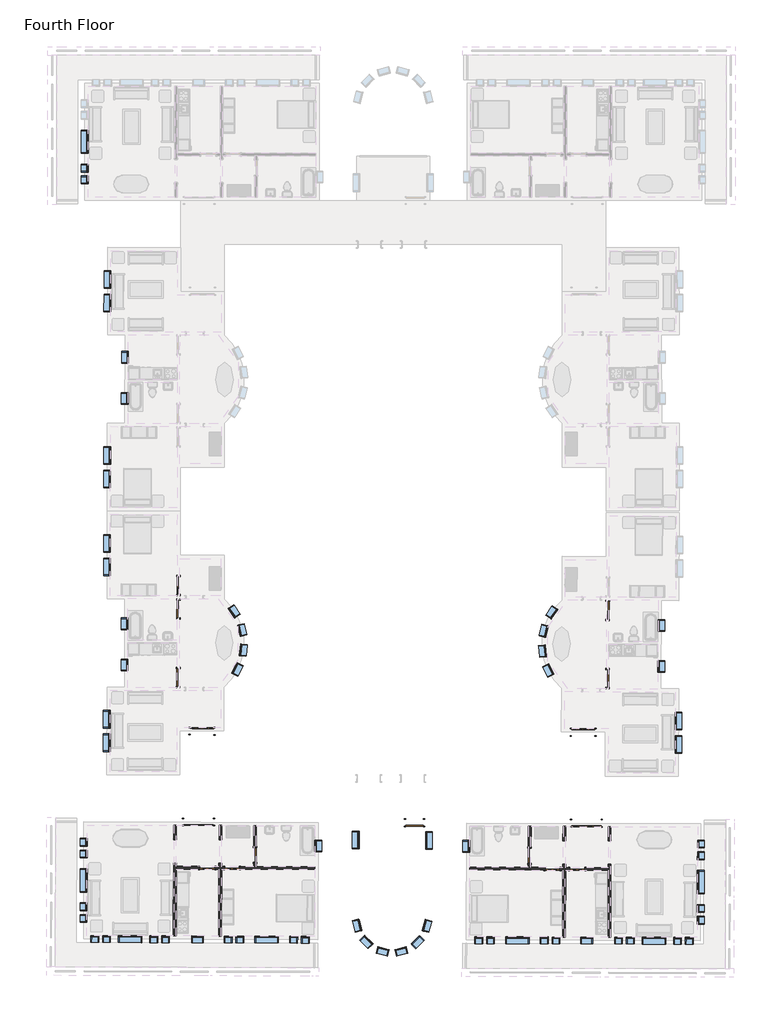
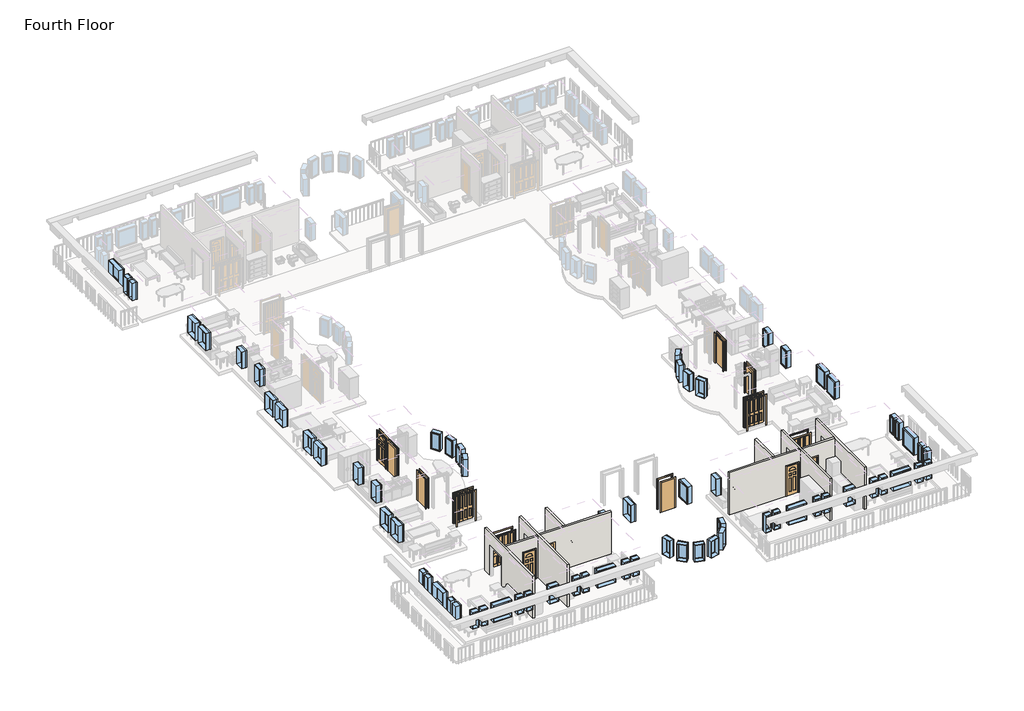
# One storey, part 1 of 8: 69 windows, 16 doors, 8 walls.
"""IFC4 building model written with IfcOpenShell, lengths in millimetres."""

from ifc_helpers import new_model, si_unit, frame, origin, place, context, project, spatial, polyline, outline, extrude, faceted_brep, transform, mapped, element, save
from components import m_bifold_4_panel_1220_x_2134mm_46e1cad3, m_bifold_4_panel_1220_x_2134mm_cde6dea2, m_bifold_4_panel_1525_x_2134mm_1ddae71f, m_bifold_4_panel_1525_x_2134mm_ac598c8b, m_single_decorative_2_0762_x_2134mm_0d0af7cb, m_single_decorative_2_0762_x_2134mm_2fe67c8e, m_single_decorative_2_0915_x_2134mm_0b11df3f, m_single_flush_0762_x_2134mm_0d89e411, m_single_flush_0762_x_2134mm_a28375c7, m_single_flush_0915_x_2134mm_ab9b6334, m_single_flush_0915_x_2134mm_08e0827a, m_single_flush_0915_x_2134mm_70678a7c, m_fixed_0406_x_1220mm_57fee329, m_fixed_0406_x_1220mm_85c28f40, m_fixed_0610_x_1220mm_2c28ef1d, m_fixed_0610_x_1220mm_1ea27827, m_fixed_0915_x_1220mm_bde29121, m_fixed_0915_x_1220mm_2a2509e7, m_fixed_1220_x_1220mm_e08ff7af, m_fixed_1220_x_1220mm_8f5f8ad3

model = new_model("IFC4")

# Units and contexts
model_context = context("Model", 3, world=origin())
ifc_project = project(units=[si_unit("LENGTHUNIT", "METRE", prefix="MILLI")], contexts=[model_context])

# Site, building, storey
site = spatial("IfcSite", under=ifc_project)
building = spatial("IfcBuilding", under=site)
storey = spatial("IfcBuildingStorey", under=building, Name="Fourth Floor", Elevation=9144.0)

# Doors
placement = place(None, origin())
m_bifold_4_panel_1220_x_2134mm_shape = m_bifold_4_panel_1220_x_2134mm_46e1cad3(model_context)
element("IfcDoor", 1, ObjectType="M_Bifold-4 Panel : 1220 x 2134mm", at=placement, inside=storey, context=model_context, shape_type="MappedRepresentation", body=[
    mapped(m_bifold_4_panel_1220_x_2134mm_shape, transform((-9084.0085376, -31158.0124606, 9144.0), x_axis=(0.9999905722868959, -0.0043422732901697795, 0.0), y_axis=(0.0043422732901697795, 0.9999905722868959, 0.0), z_axis=(0.0, 0.0, 1.0))),
])
m_bifold_4_panel_1220_x_2134mm_2_shape = m_bifold_4_panel_1220_x_2134mm_cde6dea2(model_context)
element("IfcDoor", 2, ObjectType="M_Bifold-4 Panel : 1220 x 2134mm", at=placement, inside=storey, context=model_context, shape_type="MappedRepresentation", body=[
    mapped(m_bifold_4_panel_1220_x_2134mm_2_shape, transform((-28896.4341492, -31100.6581424, 9144.0), x_axis=(-0.9999989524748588, 0.0014474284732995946, 0.0), y_axis=(-0.0014474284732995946, -0.9999989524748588, 0.0), z_axis=(0.0, 0.0, 1.0))),
])
m_bifold_4_panel_1525_x_2134mm_shape = m_bifold_4_panel_1525_x_2134mm_1ddae71f(model_context)
element("IfcDoor", 3, ObjectType="M_Bifold-4 Panel : 1525 x 2134mm", at=placement, inside=storey, context=model_context, shape_type="MappedRepresentation", body=[
    mapped(m_bifold_4_panel_1525_x_2134mm_shape, transform((-29084.8596063, -35825.933405, 9144.0), x_axis=(-0.9999958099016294, 0.0028948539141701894, 0.0), y_axis=(-0.0028948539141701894, -0.9999958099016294, 0.0), z_axis=(0.0, 0.0, 1.0))),
])
m_bifold_4_panel_1525_x_2134mm_2_shape = m_bifold_4_panel_1525_x_2134mm_ac598c8b(model_context)
element("IfcDoor", 4, ObjectType="M_Bifold-4 Panel : 1525 x 2134mm", at=placement, inside=storey, context=model_context, shape_type="MappedRepresentation", body=[
    mapped(m_bifold_4_panel_1525_x_2134mm_2_shape, transform((-8922.9440871, -35884.2994497, 9144.0), x_axis=(0.9999958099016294, -0.0028948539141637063, 0.0), y_axis=(0.0028948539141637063, 0.9999958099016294, 0.0), z_axis=(0.0, 0.0, 1.0))),
])
m_single_decorative_2_0762_x_2134mm_shape = m_single_decorative_2_0762_x_2134mm_0d0af7cb(model_context)
element("IfcDoor", 5, ObjectType="M_Single-Decorative 2 : 0762 x 2134mm", at=placement, inside=storey, context=model_context, shape_type="MappedRepresentation", body=[
    mapped(m_single_decorative_2_0762_x_2134mm_shape, transform((-10682.8170859, -38255.9648119, 9144.0), x_axis=(0.9999958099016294, -0.002894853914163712, 0.0), y_axis=(0.002894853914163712, 0.9999958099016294, 0.0), z_axis=(0.0, 0.0, 1.0))),
])
element("IfcDoor", 6, ObjectType="M_Single-Decorative 2 : 0762 x 2134mm", at=placement, inside=storey, context=model_context, shape_type="MappedRepresentation", body=[
    mapped(m_single_decorative_2_0762_x_2134mm_shape, transform((-28625.491904, -38204.0231719, 9144.0), x_axis=(0.9999958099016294, -0.0028948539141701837, 0.0), y_axis=(0.0028948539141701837, 0.9999958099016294, 0.0), z_axis=(0.0, 0.0, 1.0))),
])
m_single_decorative_2_0762_x_2134mm_2_shape = m_single_decorative_2_0762_x_2134mm_2fe67c8e(model_context)
element("IfcDoor", 7, ObjectType="M_Single-Decorative 2 : 0762 x 2134mm", at=placement, inside=storey, context=model_context, shape_type="MappedRepresentation", body=[
    mapped(m_single_decorative_2_0762_x_2134mm_2_shape, transform((-9396.0724775, -38259.6897652, 9144.0), x_axis=(-0.9999958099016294, 0.002894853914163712, 0.0), y_axis=(-0.002894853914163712, -0.9999958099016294, 0.0), z_axis=(0.0, 0.0, 1.0))),
])
element("IfcDoor", 8, ObjectType="M_Single-Decorative 2 : 0762 x 2134mm", at=placement, inside=storey, context=model_context, shape_type="MappedRepresentation", body=[
    mapped(m_single_decorative_2_0762_x_2134mm_2_shape, transform((-27338.7472956, -38207.7481251, 9144.0), x_axis=(-0.9999958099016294, 0.0028948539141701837, 0.0), y_axis=(-0.0028948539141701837, -0.9999958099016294, 0.0), z_axis=(0.0, 0.0, 1.0))),
])
m_single_decorative_2_0915_x_2134mm_shape = m_single_decorative_2_0915_x_2134mm_0b11df3f(model_context)
element("IfcDoor", 9, ObjectType="M_Single-Decorative 2 : 0915 x 2134mm", at=placement, inside=storey, context=model_context, shape_type="MappedRepresentation", body=[
    mapped(m_single_decorative_2_0915_x_2134mm_shape, transform((-30128.4841363, -23534.6169126, 9144.0), x_axis=(-0.0014474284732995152, -0.9999989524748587, 0.0), y_axis=(0.9999989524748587, -0.0014474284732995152, 0.0), z_axis=(0.0, 0.0, 1.0))),
])
m_single_flush_0762_x_2134mm_shape = m_single_flush_0762_x_2134mm_0d89e411(model_context)
element("IfcDoor", 10, ObjectType="M_Single-Flush : 0762 x 2134mm", at=placement, inside=storey, context=model_context, shape_type="MappedRepresentation", body=[
    mapped(m_single_flush_0762_x_2134mm_shape, transform((-26146.2902967, -37533.4472886, 9144.0), x_axis=(-0.0028948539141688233, -0.9999958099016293, 0.0), y_axis=(0.9999958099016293, -0.0028948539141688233, 0.0), z_axis=(0.0, 0.0, 1.0))),
])
m_single_flush_0762_x_2134mm_2_shape = m_single_flush_0762_x_2134mm_a28375c7(model_context)
element("IfcDoor", 11, ObjectType="M_Single-Flush : 0762 x 2134mm", at=placement, inside=storey, context=model_context, shape_type="MappedRepresentation", body=[
    mapped(m_single_flush_0762_x_2134mm_2_shape, transform((-11871.3501103, -37574.7713282, 9144.0), x_axis=(-0.002894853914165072, -0.9999958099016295, 0.0), y_axis=(0.9999958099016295, -0.002894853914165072, 0.0), z_axis=(0.0, 0.0, 1.0))),
])
m_single_flush_0915_x_2134mm_shape = m_single_flush_0915_x_2134mm_ab9b6334(model_context)
element("IfcDoor", 12, ObjectType="M_Single-Flush : 0915 x 2134mm", at=placement, inside=storey, context=model_context, shape_type="MappedRepresentation", body=[
    mapped(m_single_flush_0915_x_2134mm_shape, transform((-7813.4717889, -24819.219718, 9144.0), x_axis=(0.004342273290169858, 0.9999905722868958, 0.0), y_axis=(-0.9999905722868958, 0.004342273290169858, 0.0), z_axis=(0.0, 0.0, 1.0))),
])
element("IfcDoor", 13, ObjectType="M_Single-Flush : 0915 x 2134mm", at=placement, inside=storey, context=model_context, shape_type="MappedRepresentation", body=[
    mapped(m_single_flush_0915_x_2134mm_shape, transform((-30135.3858371, -28302.8619177, 9144.0), x_axis=(-0.0014474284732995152, -0.9999989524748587, 0.0), y_axis=(0.9999989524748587, -0.0014474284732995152, 0.0), z_axis=(0.0, 0.0, 1.0))),
])
m_single_flush_0915_x_2134mm_2_shape = m_single_flush_0915_x_2134mm_08e0827a(model_context)
element("IfcDoor", 14, ObjectType="M_Single-Flush : 0915 x 2134mm", at=placement, inside=storey, context=model_context, shape_type="MappedRepresentation", body=[
    mapped(m_single_flush_0915_x_2134mm_2_shape, transform((-7828.8792601, -28367.4362661, 9144.0), x_axis=(-0.004342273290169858, -0.9999905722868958, 0.0), y_axis=(0.9999905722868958, -0.004342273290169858, 0.0), z_axis=(0.0, 0.0, 1.0))),
])
element("IfcDoor", 15, ObjectType="M_Single-Flush : 0915 x 2134mm", at=placement, inside=storey, context=model_context, shape_type="MappedRepresentation", body=[
    mapped(m_single_flush_0915_x_2134mm_2_shape, transform((-30130.249999, -24754.6156346, 9144.0), x_axis=(0.0014474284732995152, 0.9999989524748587, 0.0), y_axis=(-0.9999989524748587, 0.0014474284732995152, 0.0), z_axis=(0.0, 0.0, 1.0))),
])
m_single_flush_0915_x_2134mm_3_shape = m_single_flush_0915_x_2134mm_70678a7c(model_context)
element("IfcDoor", 16, ObjectType="M_Single-Flush : 0915 x 2134mm", at=placement, inside=storey, context=model_context, shape_type="MappedRepresentation", body=[
    mapped(m_single_flush_0915_x_2134mm_3_shape, transform((-17860.906636, -35858.4252454, 9144.0), x_axis=(0.9999958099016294, -0.0028948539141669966, 0.0), y_axis=(0.0028948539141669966, 0.9999958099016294, 0.0), z_axis=(0.0, 0.0, 1.0))),
])

# Walls
element("IfcWall", 17, ObjectType="Interior - 135mm Partition (2-hr)", at=placement, inside=storey, context=model_context, shape_type="Brep", body=[
    faceted_brep([(-7661.5898742, -41808.9757108, 9144.0), (-7650.6270624, -38021.9915787, 9144.0), (-7650.6270624, -38021.9915787, 11278.0), (-7647.0953406, -36801.9966906, 11278.0), (-7647.0953406, -36801.9966906, 9144.0), (-7644.9560436, -36062.9997871, 9144.0), (-7644.9560436, -36062.9997871, 12192.0), (-7661.5898742, -41808.9757108, 12192.0), (-7786.1264946, -38021.599326, 11278.0), (-7786.1264946, -38021.599326, 9144.0), (-7786.6330941, -38196.5985928, 9144.0), (-7787.0253468, -38332.098025, 9144.0), (-7797.0893064, -41808.5834581, 9144.0), (-7797.0893064, -41808.5834581, 12192.0), (-7787.0253468, -38332.098025, 12192.0), (-7786.6330941, -38196.5985928, 12192.0), (-7780.4554758, -36062.6075344, 12192.0), (-7780.4554758, -36062.6075344, 9144.0), (-7782.5947729, -36801.6044379, 9144.0), (-7782.5947729, -36801.6044379, 11278.0)], [[[0, 1, 2, 3, 4, 5, 6, 7]], [[8, 9, 10, 11, 12, 13, 14, 15, 16, 17, 18, 19]], [[18, 17, 5, 4]], [[12, 11, 10, 9, 1, 0]], [[7, 6, 16, 15, 14, 13]], [[4, 3, 19, 18]], [[2, 1, 9, 8]], [[3, 2, 8, 19]], [[6, 5, 17, 16]], [[0, 7, 13, 12]]]),
])
element("IfcWall", 18, ObjectType="Interior - 135mm Partition (2-hr)", at=placement, inside=storey, context=model_context, shape_type="Brep", body=[
    faceted_brep([(-10000.8354782, -36795.1829282, 11278.0), (-10000.8354782, -36795.1829282, 9144.0), (-9998.6961811, -36056.1860247, 9144.0), (-9998.6961811, -36056.1860247, 12192.0), (-10004.8737994, -38190.1770831, 12192.0), (-10005.2660521, -38325.6765153, 12192.0), (-10015.3300117, -41802.1619484, 12192.0), (-10015.3300117, -41802.1619484, 9144.0), (-10005.2660521, -38325.6765153, 9144.0), (-10004.8737994, -38190.1770831, 9144.0), (-10004.3671999, -38015.1778163, 9144.0), (-10004.3671999, -38015.1778163, 11278.0), (-10134.1956134, -36055.793772, 9144.0), (-10136.3349104, -36794.7906755, 9144.0), (-10136.3349104, -36794.7906755, 11278.0), (-10139.8666322, -38014.7855636, 11278.0), (-10139.8666322, -38014.7855636, 9144.0), (-10140.3732316, -38189.7848304, 9144.0), (-10140.7654843, -38325.2842626, 9144.0), (-10150.829444, -41801.7696957, 9144.0), (-10150.829444, -41801.7696957, 12192.0), (-10140.7654843, -38325.2842626, 12192.0), (-10140.3732316, -38189.7848304, 12192.0), (-10134.1956134, -36055.793772, 12192.0)], [[[0, 1, 2, 3, 4, 5, 6, 7, 8, 9, 10, 11]], [[12, 13, 14, 15, 16, 17, 18, 19, 20, 21, 22, 23]], [[2, 1, 13, 12]], [[10, 9, 8, 7, 19, 18, 17, 16]], [[6, 5, 4, 3, 23, 22, 21, 20]], [[16, 15, 11, 10]], [[14, 13, 1, 0]], [[15, 14, 0, 11]], [[3, 2, 12, 23]], [[7, 6, 20, 19]]]),
])
element("IfcWall", 19, ObjectType="Interior - 135mm Partition (2-hr)", at=placement, inside=storey, context=model_context, shape_type="Brep", body=[
    faceted_brep([(-9777.2670074, -38326.336542, 9144.0), (-9777.2670074, -38326.336542, 11278.0), (-9015.2702003, -38328.5424207, 11278.0), (-9015.2702003, -38328.5424207, 9144.0), (-7787.0253468, -38332.098025, 9144.0), (-7787.0253468, -38332.098025, 12192.0), (-10005.2660521, -38325.6765153, 12192.0), (-10005.2660521, -38325.6765153, 9144.0), (-9776.8747547, -38190.8371097, 11278.0), (-9776.8747547, -38190.8371097, 9144.0), (-10004.8737994, -38190.1770831, 9144.0), (-10004.8737994, -38190.1770831, 12192.0), (-7786.6330941, -38196.5985928, 12192.0), (-7786.6330941, -38196.5985928, 9144.0), (-9014.8779476, -38193.0429884, 9144.0), (-9014.8779476, -38193.0429884, 11278.0)], [[[0, 1, 2, 3, 4, 5, 6, 7]], [[8, 9, 10, 11, 12, 13, 14, 15]], [[9, 0, 7, 10]], [[3, 14, 13, 4]], [[5, 12, 11, 6]], [[1, 0, 9, 8]], [[2, 1, 8, 15]], [[3, 2, 15, 14]], [[5, 4, 13, 12]], [[7, 6, 11, 10]]]),
    faceted_brep([(-10302.0148087, -38324.8174674, 11278.0), (-10302.0148087, -38324.8174674, 9144.0), (-10140.7654843, -38325.2842626, 9144.0), (-10140.7654843, -38325.2842626, 12192.0), (-14989.2451686, -38311.2485634, 12192.0), (-14989.2451686, -38311.2485634, 9144.0), (-11064.0116158, -38322.6115887, 9144.0), (-11064.0116158, -38322.6115887, 11278.0), (-10301.622556, -38189.3180352, 9144.0), (-10301.622556, -38189.3180352, 11278.0), (-11063.6193631, -38187.1121565, 11278.0), (-11063.6193631, -38187.1121565, 9144.0), (-11805.3662551, -38184.9648986, 9144.0), (-11940.8656874, -38184.5726459, 9144.0), (-14988.8529159, -38175.7491311, 9144.0), (-14988.8529159, -38175.7491311, 12192.0), (-11940.8656874, -38184.5726459, 12192.0), (-11805.3662551, -38184.9648986, 12192.0), (-10140.3732316, -38189.7848304, 12192.0), (-10140.3732316, -38189.7848304, 9144.0)], [[[0, 1, 2, 3, 4, 5, 6, 7]], [[8, 9, 10, 11, 12, 13, 14, 15, 16, 17, 18, 19]], [[1, 8, 19, 2]], [[11, 6, 5, 14, 13, 12]], [[15, 4, 3, 18, 17, 16]], [[9, 8, 1, 0]], [[10, 9, 0, 7]], [[11, 10, 7, 6]], [[5, 4, 15, 14]], [[3, 2, 19, 18]]]),
])
element("IfcWall", 20, ObjectType="Interior - 135mm Partition (2-hr)", at=placement, inside=storey, context=model_context, shape_type="SweptSolid", body=[
    extrude(outline(polyline([(-2309.0, 0.0), (-2080.0, 0.0), (-2080.0, -2134.0), (-1318.0, -2134.0), (-1318.0, 0.0), (-175.0000001, 0.0), (-175.0000001, -3048.0), (-2309.0, -3048.0), (-2309.0, 0.0)])), frame((-11798.6820374, -35875.9745735, 9144.0), z_axis=(-0.9999958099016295, 0.002894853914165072, 0.0), x_axis=(0.002894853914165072, 0.9999958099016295, 0.0)), (0.0, 0.0, 1.0), 135.5),
])
element("IfcWall", 21, ObjectType="Interior - 135mm Partition (2-hr)", at=placement, inside=storey, context=model_context, shape_type="Brep", body=[
    faceted_brep([(-30244.9952471, -41743.5997775, 9144.0), (-30234.9312874, -38267.1143443, 9144.0), (-30234.5390347, -38131.6149121, 9144.0), (-30234.0324353, -37956.6156454, 9144.0), (-30234.0324353, -37956.6156454, 11278.0), (-30230.5007135, -36736.6207573, 11278.0), (-30230.5007135, -36736.6207573, 9144.0), (-30228.3614165, -35997.6238538, 9144.0), (-30228.3614165, -35997.6238538, 12192.0), (-30234.5390347, -38131.6149121, 12192.0), (-30234.9312874, -38267.1143443, 12192.0), (-30244.9952471, -41743.5997775, 12192.0), (-30369.5318675, -37956.2233926, 11278.0), (-30369.5318675, -37956.2233926, 9144.0), (-30380.4946793, -41743.2075247, 9144.0), (-30380.4946793, -41743.2075247, 12192.0), (-30363.8608487, -35997.2316011, 12192.0), (-30363.8608487, -35997.2316011, 9144.0), (-30366.0001458, -36736.2285046, 9144.0), (-30366.0001458, -36736.2285046, 11278.0)], [[[0, 1, 2, 3, 4, 5, 6, 7, 8, 9, 10, 11]], [[12, 13, 14, 15, 16, 17, 18, 19]], [[18, 17, 7, 6]], [[14, 13, 3, 2, 1, 0]], [[11, 10, 9, 8, 16, 15]], [[6, 5, 19, 18]], [[4, 3, 13, 12]], [[5, 4, 12, 19]], [[0, 11, 15, 14]], [[8, 7, 17, 16]]]),
])
element("IfcWall", 22, ObjectType="Interior - 135mm Partition (2-hr)", at=placement, inside=storey, context=model_context, shape_type="Brep", body=[
    faceted_brep([(-27876.760576, -36743.4345197, 11278.0), (-27876.760576, -36743.4345197, 9144.0), (-27874.6212789, -36004.4376162, 9144.0), (-27874.6212789, -36004.4376162, 12192.0), (-27880.7988972, -38138.4286745, 12192.0), (-27881.1911499, -38273.9281067, 12192.0), (-27891.2551095, -41750.4135399, 12192.0), (-27891.2551095, -41750.4135399, 9144.0), (-27881.1911499, -38273.9281067, 9144.0), (-27880.7988972, -38138.4286745, 9144.0), (-27880.2922977, -37963.4294078, 9144.0), (-27880.2922977, -37963.4294078, 11278.0), (-28010.1207112, -36004.0453635, 9144.0), (-28012.2600082, -36743.042267, 9144.0), (-28012.2600082, -36743.042267, 11278.0), (-28015.79173, -37963.037155, 11278.0), (-28015.79173, -37963.037155, 9144.0), (-28016.2983294, -38138.0364218, 9144.0), (-28016.6905821, -38273.535854, 9144.0), (-28026.7545418, -41750.0212871, 9144.0), (-28026.7545418, -41750.0212871, 12192.0), (-28016.6905821, -38273.535854, 12192.0), (-28016.2983294, -38138.0364218, 12192.0), (-28010.1207112, -36004.0453635, 12192.0)], [[[0, 1, 2, 3, 4, 5, 6, 7, 8, 9, 10, 11]], [[12, 13, 14, 15, 16, 17, 18, 19, 20, 21, 22, 23]], [[2, 1, 13, 12]], [[10, 9, 8, 7, 19, 18, 17, 16]], [[6, 5, 4, 3, 23, 22, 21, 20]], [[16, 15, 11, 10]], [[14, 13, 1, 0]], [[15, 14, 0, 11]], [[7, 6, 20, 19]], [[3, 2, 12, 23]]]),
])
element("IfcWall", 23, ObjectType="Interior - 135mm Partition (2-hr)", at=placement, inside=storey, context=model_context, shape_type="Brep", body=[
    faceted_brep([(-30234.5390347, -38131.6149121, 9144.0), (-30234.5390347, -38131.6149121, 12192.0), (-28016.2983294, -38138.0364218, 12192.0), (-28016.2983294, -38138.0364218, 9144.0), (-28244.2973741, -38137.3763951, 9144.0), (-28244.2973741, -38137.3763951, 11278.0), (-29006.2941812, -38135.1705164, 11278.0), (-29006.2941812, -38135.1705164, 9144.0), (-30234.9312874, -38267.1143443, 12192.0), (-30234.9312874, -38267.1143443, 9144.0), (-29006.6864339, -38270.6699486, 9144.0), (-29006.6864339, -38270.6699486, 11278.0), (-28244.6896268, -38272.8758273, 11278.0), (-28244.6896268, -38272.8758273, 9144.0), (-28016.6905821, -38273.535854, 9144.0), (-28016.6905821, -38273.535854, 12192.0)], [[[0, 1, 2, 3, 4, 5, 6, 7]], [[8, 9, 10, 11, 12, 13, 14, 15]], [[9, 0, 7, 10]], [[13, 4, 3, 14]], [[1, 8, 15, 2]], [[1, 0, 9, 8]], [[3, 2, 15, 14]], [[5, 4, 13, 12]], [[6, 5, 12, 11]], [[7, 6, 11, 10]]]),
    faceted_brep([(-27719.5495728, -38138.8954697, 11278.0), (-27719.5495728, -38138.8954697, 9144.0), (-27880.7988972, -38138.4286745, 9144.0), (-27880.7988972, -38138.4286745, 12192.0), (-26215.8058737, -38143.2486063, 12192.0), (-26080.3064415, -38143.640859, 12192.0), (-23032.3192129, -38152.4643737, 12192.0), (-23032.3192129, -38152.4643737, 9144.0), (-26080.3064415, -38143.640859, 9144.0), (-26215.8058737, -38143.2486063, 9144.0), (-26957.5527657, -38141.1013484, 9144.0), (-26957.5527657, -38141.1013484, 11278.0), (-27719.9418255, -38274.3949019, 9144.0), (-27719.9418255, -38274.3949019, 11278.0), (-26957.9450184, -38276.6007806, 11278.0), (-26957.9450184, -38276.6007806, 9144.0), (-23032.7114656, -38287.9638059, 9144.0), (-23032.7114656, -38287.9638059, 12192.0), (-27881.1911499, -38273.9281067, 12192.0), (-27881.1911499, -38273.9281067, 9144.0)], [[[0, 1, 2, 3, 4, 5, 6, 7, 8, 9, 10, 11]], [[12, 13, 14, 15, 16, 17, 18, 19]], [[1, 12, 19, 2]], [[15, 10, 9, 8, 7, 16]], [[17, 6, 5, 4, 3, 18]], [[3, 2, 19, 18]], [[13, 12, 1, 0]], [[14, 13, 0, 11]], [[15, 14, 11, 10]], [[7, 6, 17, 16]]]),
])
element("IfcWall", 24, ObjectType="Interior - 135mm Partition (2-hr)", at=placement, inside=storey, context=model_context, shape_type="SweptSolid", body=[
    extrude(outline(polyline([(-2309.0, 0.0), (-2080.0, 0.0), (-2080.0, -2134.0), (-1317.9999999, -2134.0), (-1317.9999999, 0.0), (-175.0, 0.0), (-175.0, -3048.0), (-2309.0, -3048.0), (-2309.0, 0.0)])), frame((-26073.6222238, -35834.6505339, 9144.0), z_axis=(-0.9999958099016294, 0.0028948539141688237, 0.0), x_axis=(0.0028948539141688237, 0.9999958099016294, 0.0)), (0.0, 0.0, 1.0), 135.5),
])

# Windows
m_fixed_0406_x_1220mm_shape = m_fixed_0406_x_1220mm_57fee329(model_context)
element("IfcWindow", 25, ObjectType="M_Fixed : 0406 x 1220mm", at=placement, inside=storey, context=model_context, shape_type="MappedRepresentation", body=[
    mapped(m_fixed_0406_x_1220mm_shape, transform((-35008.8416203, -2447.8811614, 9144.0), x_axis=(0.0, -1.0, 0.0), y_axis=(1.0, 0.0, 0.0), z_axis=(0.0, 0.0, 1.0))),
])
element("IfcWindow", 26, ObjectType="M_Fixed : 0406 x 1220mm", at=placement, inside=storey, context=model_context, shape_type="MappedRepresentation", body=[
    mapped(m_fixed_0406_x_1220mm_shape, transform((-35008.8416203, -1837.8811614, 9144.0), x_axis=(0.0, -1.0, 0.0), y_axis=(1.0, 0.0, 0.0), z_axis=(0.0, 0.0, 1.0))),
])
element("IfcWindow", 27, ObjectType="M_Fixed : 0406 x 1220mm", at=placement, inside=storey, context=model_context, shape_type="MappedRepresentation", body=[
    mapped(m_fixed_0406_x_1220mm_shape, transform((-10500.8722121, -41988.7571565, 9144.0), x_axis=(0.9999958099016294, -0.002894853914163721, 0.0), y_axis=(0.002894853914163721, 0.9999958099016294, 0.0), z_axis=(0.0, 0.0, 1.0))),
])
element("IfcWindow", 28, ObjectType="M_Fixed : 0406 x 1220mm", at=placement, inside=storey, context=model_context, shape_type="MappedRepresentation", body=[
    mapped(m_fixed_0406_x_1220mm_shape, transform((-11110.8696561, -41986.9912956, 9144.0), x_axis=(0.9999958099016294, -0.002894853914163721, 0.0), y_axis=(0.002894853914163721, 0.9999958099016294, 0.0), z_axis=(0.0, 0.0, 1.0))),
])
element("IfcWindow", 29, ObjectType="M_Fixed : 0406 x 1220mm", at=placement, inside=storey, context=model_context, shape_type="MappedRepresentation", body=[
    mapped(m_fixed_0406_x_1220mm_shape, transform((-3572.1512442, -42008.8148756, 9144.0), x_axis=(0.9999958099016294, -0.002894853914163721, 0.0), y_axis=(0.002894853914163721, 0.9999958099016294, 0.0), z_axis=(0.0, 0.0, 1.0))),
])
element("IfcWindow", 30, ObjectType="M_Fixed : 0406 x 1220mm", at=placement, inside=storey, context=model_context, shape_type="MappedRepresentation", body=[
    mapped(m_fixed_0406_x_1220mm_shape, transform((-4182.1486882, -42007.0490147, 9144.0), x_axis=(0.9999958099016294, -0.002894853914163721, 0.0), y_axis=(0.002894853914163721, 0.9999958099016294, 0.0), z_axis=(0.0, 0.0, 1.0))),
])
element("IfcWindow", 31, ObjectType="M_Fixed : 0406 x 1220mm", at=placement, inside=storey, context=model_context, shape_type="MappedRepresentation", body=[
    mapped(m_fixed_0406_x_1220mm_shape, transform((-2955.3079143, -36968.5794278, 9144.0), x_axis=(0.0028948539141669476, 0.9999958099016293, 0.0), y_axis=(-0.9999958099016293, 0.0028948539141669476, 0.0), z_axis=(0.0, 0.0, 1.0))),
])
element("IfcWindow", 32, ObjectType="M_Fixed : 0406 x 1220mm", at=placement, inside=storey, context=model_context, shape_type="MappedRepresentation", body=[
    mapped(m_fixed_0406_x_1220mm_shape, transform((-2957.0737751, -37578.5768719, 9144.0), x_axis=(0.0028948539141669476, 0.9999958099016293, 0.0), y_axis=(-0.9999958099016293, 0.0028948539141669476, 0.0), z_axis=(0.0, 0.0, 1.0))),
])
element("IfcWindow", 33, ObjectType="M_Fixed : 0406 x 1220mm", at=placement, inside=storey, context=model_context, shape_type="MappedRepresentation", body=[
    mapped(m_fixed_0406_x_1220mm_shape, transform((-23528.3176256, -41951.0444472, 9144.0), x_axis=(0.9999958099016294, -0.0028948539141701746, 0.0), y_axis=(0.0028948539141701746, 0.9999958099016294, 0.0), z_axis=(0.0, 0.0, 1.0))),
])
element("IfcWindow", 34, ObjectType="M_Fixed : 0406 x 1220mm", at=placement, inside=storey, context=model_context, shape_type="MappedRepresentation", body=[
    mapped(m_fixed_0406_x_1220mm_shape, transform((-24138.3150696, -41949.2785863, 9144.0), x_axis=(0.9999958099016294, -0.0028948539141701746, 0.0), y_axis=(0.0028948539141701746, 0.9999958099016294, 0.0), z_axis=(0.0, 0.0, 1.0))),
])
element("IfcWindow", 35, ObjectType="M_Fixed : 0406 x 1220mm", at=placement, inside=storey, context=model_context, shape_type="MappedRepresentation", body=[
    mapped(m_fixed_0406_x_1220mm_shape, transform((-30795.2871761, -41930.0075438, 9144.0), x_axis=(0.9999958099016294, -0.0028948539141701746, 0.0), y_axis=(0.0028948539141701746, 0.9999958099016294, 0.0), z_axis=(0.0, 0.0, 1.0))),
])
element("IfcWindow", 36, ObjectType="M_Fixed : 0406 x 1220mm", at=placement, inside=storey, context=model_context, shape_type="MappedRepresentation", body=[
    mapped(m_fixed_0406_x_1220mm_shape, transform((-31405.2846201, -41928.2416829, 9144.0), x_axis=(0.9999958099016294, -0.0028948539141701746, 0.0), y_axis=(0.0028948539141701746, 0.9999958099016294, 0.0), z_axis=(0.0, 0.0, 1.0))),
])
element("IfcWindow", 37, ObjectType="M_Fixed : 0406 x 1220mm", at=placement, inside=storey, context=model_context, shape_type="MappedRepresentation", body=[
    mapped(m_fixed_0406_x_1220mm_shape, transform((-35070.1428086, -40837.627884, 9144.0), x_axis=(-0.002894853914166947, -0.9999958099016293, 0.0), y_axis=(0.9999958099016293, -0.002894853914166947, 0.0), z_axis=(0.0, 0.0, 1.0))),
])
element("IfcWindow", 38, ObjectType="M_Fixed : 0406 x 1220mm", at=placement, inside=storey, context=model_context, shape_type="MappedRepresentation", body=[
    mapped(m_fixed_0406_x_1220mm_shape, transform((-35068.3769478, -40227.63044, 9144.0), x_axis=(-0.002894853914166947, -0.9999958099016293, 0.0), y_axis=(0.9999958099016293, -0.002894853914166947, 0.0), z_axis=(0.0, 0.0, 1.0))),
])
m_fixed_0406_x_1220mm_2_shape = m_fixed_0406_x_1220mm_85c28f40(model_context)
element("IfcWindow", 39, ObjectType="M_Fixed : 0406 x 1220mm", at=placement, inside=storey, context=model_context, shape_type="MappedRepresentation", body=[
    mapped(m_fixed_0406_x_1220mm_2_shape, transform((-14514.855393, -41977.1372129, 9144.0), x_axis=(-0.9999958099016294, 0.002894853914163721, 0.0), y_axis=(-0.002894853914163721, -0.9999958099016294, 0.0), z_axis=(0.0, 0.0, 1.0))),
])
element("IfcWindow", 40, ObjectType="M_Fixed : 0406 x 1220mm", at=placement, inside=storey, context=model_context, shape_type="MappedRepresentation", body=[
    mapped(m_fixed_0406_x_1220mm_2_shape, transform((-13904.857949, -41978.9030738, 9144.0), x_axis=(-0.9999958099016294, 0.002894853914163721, 0.0), y_axis=(-0.002894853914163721, -0.9999958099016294, 0.0), z_axis=(0.0, 0.0, 1.0))),
])
element("IfcWindow", 41, ObjectType="M_Fixed : 0406 x 1220mm", at=placement, inside=storey, context=model_context, shape_type="MappedRepresentation", body=[
    mapped(m_fixed_0406_x_1220mm_2_shape, transform((-7247.8858424, -41998.1741163, 9144.0), x_axis=(-0.9999958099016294, 0.002894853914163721, 0.0), y_axis=(-0.002894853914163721, -0.9999958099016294, 0.0), z_axis=(0.0, 0.0, 1.0))),
])
element("IfcWindow", 42, ObjectType="M_Fixed : 0406 x 1220mm", at=placement, inside=storey, context=model_context, shape_type="MappedRepresentation", body=[
    mapped(m_fixed_0406_x_1220mm_2_shape, transform((-6637.8883984, -41999.9399772, 9144.0), x_axis=(-0.9999958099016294, 0.002894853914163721, 0.0), y_axis=(-0.002894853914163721, -0.9999958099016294, 0.0), z_axis=(0.0, 0.0, 1.0))),
])
element("IfcWindow", 43, ObjectType="M_Fixed : 0406 x 1220mm", at=placement, inside=storey, context=model_context, shape_type="MappedRepresentation", body=[
    mapped(m_fixed_0406_x_1220mm_2_shape, transform((-2966.7773255, -40930.5628267, 9144.0), x_axis=(-0.0028948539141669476, -0.9999958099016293, 0.0), y_axis=(0.9999958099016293, -0.0028948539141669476, 0.0), z_axis=(0.0, 0.0, 1.0))),
])
element("IfcWindow", 44, ObjectType="M_Fixed : 0406 x 1220mm", at=placement, inside=storey, context=model_context, shape_type="MappedRepresentation", body=[
    mapped(m_fixed_0406_x_1220mm_2_shape, transform((-2965.0114646, -40320.5653826, 9144.0), x_axis=(-0.0028948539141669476, -0.9999958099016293, 0.0), y_axis=(0.9999958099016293, -0.0028948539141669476, 0.0), z_axis=(0.0, 0.0, 1.0))),
])
element("IfcWindow", 45, ObjectType="M_Fixed : 0406 x 1220mm", at=placement, inside=storey, context=model_context, shape_type="MappedRepresentation", body=[
    mapped(m_fixed_0406_x_1220mm_2_shape, transform((-27542.3008065, -41939.4245036, 9144.0), x_axis=(-0.9999958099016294, 0.0028948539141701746, 0.0), y_axis=(-0.0028948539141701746, -0.9999958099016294, 0.0), z_axis=(0.0, 0.0, 1.0))),
])
element("IfcWindow", 46, ObjectType="M_Fixed : 0406 x 1220mm", at=placement, inside=storey, context=model_context, shape_type="MappedRepresentation", body=[
    mapped(m_fixed_0406_x_1220mm_2_shape, transform((-26932.3033625, -41941.1903644, 9144.0), x_axis=(-0.9999958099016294, 0.0028948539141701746, 0.0), y_axis=(-0.0028948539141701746, -0.9999958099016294, 0.0), z_axis=(0.0, 0.0, 1.0))),
])
element("IfcWindow", 47, ObjectType="M_Fixed : 0406 x 1220mm", at=placement, inside=storey, context=model_context, shape_type="MappedRepresentation", body=[
    mapped(m_fixed_0406_x_1220mm_2_shape, transform((-34471.0217744, -41919.3667845, 9144.0), x_axis=(-0.9999958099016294, 0.0028948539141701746, 0.0), y_axis=(-0.0028948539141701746, -0.9999958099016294, 0.0), z_axis=(0.0, 0.0, 1.0))),
])
element("IfcWindow", 48, ObjectType="M_Fixed : 0406 x 1220mm", at=placement, inside=storey, context=model_context, shape_type="MappedRepresentation", body=[
    mapped(m_fixed_0406_x_1220mm_2_shape, transform((-33861.0243303, -41921.1326454, 9144.0), x_axis=(-0.9999958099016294, 0.0028948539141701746, 0.0), y_axis=(-0.0028948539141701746, -0.9999958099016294, 0.0), z_axis=(0.0, 0.0, 1.0))),
])
element("IfcWindow", 49, ObjectType="M_Fixed : 0406 x 1220mm", at=placement, inside=storey, context=model_context, shape_type="MappedRepresentation", body=[
    mapped(m_fixed_0406_x_1220mm_2_shape, transform((-35058.6733974, -36875.6444852, 9144.0), x_axis=(0.002894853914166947, 0.9999958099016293, 0.0), y_axis=(-0.9999958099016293, 0.002894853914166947, 0.0), z_axis=(0.0, 0.0, 1.0))),
])
element("IfcWindow", 50, ObjectType="M_Fixed : 0406 x 1220mm", at=placement, inside=storey, context=model_context, shape_type="MappedRepresentation", body=[
    mapped(m_fixed_0406_x_1220mm_2_shape, transform((-35060.4392583, -37485.6419292, 9144.0), x_axis=(0.002894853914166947, 0.9999958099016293, 0.0), y_axis=(-0.9999958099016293, 0.002894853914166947, 0.0), z_axis=(0.0, 0.0, 1.0))),
])
m_fixed_0610_x_1220mm_shape = m_fixed_0610_x_1220mm_2c28ef1d(model_context)
element("IfcWindow", 51, ObjectType="M_Fixed : 0610 x 1220mm", at=placement, inside=storey, context=model_context, shape_type="MappedRepresentation", body=[
    mapped(m_fixed_0610_x_1220mm_shape, transform((-32923.0053866, -13805.8618518, 9144.0), x_axis=(-0.0014474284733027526, -0.9999989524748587, 0.0), y_axis=(0.9999989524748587, -0.0014474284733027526, 0.0), z_axis=(0.0, 0.0, 1.0))),
])
element("IfcWindow", 52, ObjectType="M_Fixed : 0610 x 1220mm", at=placement, inside=storey, context=model_context, shape_type="MappedRepresentation", body=[
    mapped(m_fixed_0610_x_1220mm_shape, transform((-32919.9171532, -11672.2640868, 9144.0), x_axis=(-0.0014474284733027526, -0.9999989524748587, 0.0), y_axis=(0.9999989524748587, -0.0014474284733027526, 0.0), z_axis=(0.0, 0.0, 1.0))),
])
element("IfcWindow", 53, ObjectType="M_Fixed : 0610 x 1220mm", at=placement, inside=storey, context=model_context, shape_type="MappedRepresentation", body=[
    mapped(m_fixed_0610_x_1220mm_shape, transform((-17192.9734341, -41226.7827416, 9144.0), x_axis=(0.2616141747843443, 0.9651725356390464, 0.0), y_axis=(-0.9651725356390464, 0.2616141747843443, 0.0), z_axis=(0.0, 0.0, 1.0))),
])
element("IfcWindow", 54, ObjectType="M_Fixed : 0610 x 1220mm", at=placement, inside=storey, context=model_context, shape_type="MappedRepresentation", body=[
    mapped(m_fixed_0610_x_1220mm_shape, transform((-18533.9080335, -42559.9760987, 9144.0), x_axis=(0.9666710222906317, 0.2560217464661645, 0.0), y_axis=(-0.2560217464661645, 0.9666710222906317, 0.0), z_axis=(0.0, 0.0, 1.0))),
])
element("IfcWindow", 55, ObjectType="M_Fixed : 0610 x 1220mm", at=placement, inside=storey, context=model_context, shape_type="MappedRepresentation", body=[
    mapped(m_fixed_0610_x_1220mm_shape, transform((-17684.8266921, -42073.0305917, 9144.0), x_axis=(0.709150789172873, 0.7050568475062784, 0.0), y_axis=(-0.7050568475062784, 0.709150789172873, 0.0), z_axis=(0.0, 0.0, 1.0))),
])
element("IfcWindow", 56, ObjectType="M_Fixed : 0610 x 1220mm", at=placement, inside=storey, context=model_context, shape_type="MappedRepresentation", body=[
    mapped(m_fixed_0610_x_1220mm_shape, transform((-5008.2557133, -25604.6081373, 9144.0), x_axis=(0.004342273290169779, 0.9999905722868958, 0.0), y_axis=(-0.9999905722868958, 0.004342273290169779, 0.0), z_axis=(0.0, 0.0, 1.0))),
])
element("IfcWindow", 57, ObjectType="M_Fixed : 0610 x 1220mm", at=placement, inside=storey, context=model_context, shape_type="MappedRepresentation", body=[
    mapped(m_fixed_0610_x_1220mm_shape, transform((-5017.5203876, -27738.1880223, 9144.0), x_axis=(0.004342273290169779, 0.9999905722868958, 0.0), y_axis=(-0.9999905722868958, 0.004342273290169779, 0.0), z_axis=(0.0, 0.0, 1.0))),
])
element("IfcWindow", 58, ObjectType="M_Fixed : 0610 x 1220mm", at=placement, inside=storey, context=model_context, shape_type="MappedRepresentation", body=[
    mapped(m_fixed_0610_x_1220mm_shape, transform((-10733.6258869, -24914.686736, 9144.0), x_axis=(-0.5501771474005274, -0.835047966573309, 0.0), y_axis=(0.835047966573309, -0.5501771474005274, 0.0), z_axis=(0.0, 0.0, 1.0))),
])
element("IfcWindow", 59, ObjectType="M_Fixed : 0610 x 1220mm", at=placement, inside=storey, context=model_context, shape_type="MappedRepresentation", body=[
    mapped(m_fixed_0610_x_1220mm_shape, transform((-11153.2313288, -25885.3058303, 9144.0), x_axis=(-0.23139418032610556, -0.9728600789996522, 0.0), y_axis=(0.9728600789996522, -0.23139418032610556, 0.0), z_axis=(0.0, 0.0, 1.0))),
])
element("IfcWindow", 60, ObjectType="M_Fixed : 0610 x 1220mm", at=placement, inside=storey, context=model_context, shape_type="MappedRepresentation", body=[
    mapped(m_fixed_0610_x_1220mm_shape, transform((-29136.4441269, -41934.8096722, 9144.0), x_axis=(0.9999958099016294, -0.0028948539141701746, 0.0), y_axis=(0.0028948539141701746, 0.9999958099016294, 0.0), z_axis=(0.0, 0.0, 1.0))),
])
element("IfcWindow", 61, ObjectType="M_Fixed : 0610 x 1220mm", at=placement, inside=storey, context=model_context, shape_type="MappedRepresentation", body=[
    mapped(m_fixed_0610_x_1220mm_shape, transform((-22841.1675047, -37064.0131692, 9144.0), x_axis=(0.0028948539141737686, 0.9999958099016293, 0.0), y_axis=(-0.9999958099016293, 0.0028948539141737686, 0.0), z_axis=(0.0, 0.0, 1.0))),
])
element("IfcWindow", 62, ObjectType="M_Fixed : 0610 x 1220mm", at=placement, inside=storey, context=model_context, shape_type="MappedRepresentation", body=[
    mapped(m_fixed_0610_x_1220mm_shape, transform((-27047.2502691, -27908.2496385, 9144.0), x_axis=(0.4532525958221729, 0.8913821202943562, 0.0), y_axis=(-0.8913821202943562, 0.4532525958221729, 0.0), z_axis=(0.0, 0.0, 1.0))),
])
element("IfcWindow", 63, ObjectType="M_Fixed : 0610 x 1220mm", at=placement, inside=storey, context=model_context, shape_type="MappedRepresentation", body=[
    mapped(m_fixed_0610_x_1220mm_shape, transform((-26738.7440135, -26896.1747529, 9144.0), x_axis=(0.12104747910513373, 0.9926467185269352, 0.0), y_axis=(-0.9926467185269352, 0.12104747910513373, 0.0), z_axis=(0.0, 0.0, 1.0))),
])
m_fixed_0610_x_1220mm_2_shape = m_fixed_0610_x_1220mm_1ea27827(model_context)
element("IfcWindow", 64, ObjectType="M_Fixed : 0610 x 1220mm", at=placement, inside=storey, context=model_context, shape_type="MappedRepresentation", body=[
    mapped(m_fixed_0610_x_1220mm_2_shape, transform((-8906.7288917, -41993.3719879, 9144.0), x_axis=(-0.9999958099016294, 0.002894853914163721, 0.0), y_axis=(-0.002894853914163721, -0.9999958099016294, 0.0), z_axis=(0.0, 0.0, 1.0))),
])
element("IfcWindow", 65, ObjectType="M_Fixed : 0610 x 1220mm", at=placement, inside=storey, context=model_context, shape_type="MappedRepresentation", body=[
    mapped(m_fixed_0610_x_1220mm_2_shape, transform((-15173.6996323, -37086.2094616, 9144.0), x_axis=(0.0028948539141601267, 0.9999958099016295, 0.0), y_axis=(-0.9999958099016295, 0.0028948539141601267, 0.0), z_axis=(0.0, 0.0, 1.0))),
])
element("IfcWindow", 66, ObjectType="M_Fixed : 0610 x 1220mm", at=placement, inside=storey, context=model_context, shape_type="MappedRepresentation", body=[
    mapped(m_fixed_0610_x_1220mm_2_shape, transform((-20845.9001557, -41216.208008, 9144.0), x_axis=(-0.25602174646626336, 0.9666710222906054, 0.0), y_axis=(-0.9666710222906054, -0.25602174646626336, 0.0), z_axis=(0.0, 0.0, 1.0))),
])
element("IfcWindow", 67, ObjectType="M_Fixed : 0610 x 1220mm", at=placement, inside=storey, context=model_context, shape_type="MappedRepresentation", body=[
    mapped(m_fixed_0610_x_1220mm_2_shape, transform((-19512.7067986, -42557.1426074, 9144.0), x_axis=(-0.9651725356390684, 0.26161417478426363, 0.0), y_axis=(-0.26161417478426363, -0.9651725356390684, 0.0), z_axis=(0.0, 0.0, 1.0))),
])
element("IfcWindow", 68, ObjectType="M_Fixed : 0610 x 1220mm", at=placement, inside=storey, context=model_context, shape_type="MappedRepresentation", body=[
    mapped(m_fixed_0610_x_1220mm_2_shape, transform((-20358.9546487, -42065.2893494, 9144.0), x_axis=(-0.7050568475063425, 0.7091507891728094, 0.0), y_axis=(-0.7091507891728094, -0.7050568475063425, 0.0), z_axis=(0.0, 0.0, 1.0))),
])
element("IfcWindow", 69, ObjectType="M_Fixed : 0610 x 1220mm", at=placement, inside=storey, context=model_context, shape_type="MappedRepresentation", body=[
    mapped(m_fixed_0610_x_1220mm_2_shape, transform((-10913.0946738, -27954.1574868, 9144.0), x_axis=(-0.448084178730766, 0.8939913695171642, 0.0), y_axis=(-0.8939913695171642, -0.448084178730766, 0.0), z_axis=(0.0, 0.0, 1.0))),
])
element("IfcWindow", 70, ObjectType="M_Fixed : 0610 x 1220mm", at=placement, inside=storey, context=model_context, shape_type="MappedRepresentation", body=[
    mapped(m_fixed_0610_x_1220mm_2_shape, transform((-11215.5601844, -26940.9029442, 9144.0), x_axis=(-0.11529833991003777, 0.9933309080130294, 0.0), y_axis=(-0.9933309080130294, -0.11529833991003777, 0.0), z_axis=(0.0, 0.0, 1.0))),
])
element("IfcWindow", 71, ObjectType="M_Fixed : 0610 x 1220mm", at=placement, inside=storey, context=model_context, shape_type="MappedRepresentation", body=[
    mapped(m_fixed_0610_x_1220mm_2_shape, transform((-32939.9662087, -25523.749577, 9144.0), x_axis=(0.0014474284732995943, 0.9999989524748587, 0.0), y_axis=(-0.9999989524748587, 0.0014474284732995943, 0.0), z_axis=(0.0, 0.0, 1.0))),
])
element("IfcWindow", 72, ObjectType="M_Fixed : 0610 x 1220mm", at=placement, inside=storey, context=model_context, shape_type="MappedRepresentation", body=[
    mapped(m_fixed_0610_x_1220mm_2_shape, transform((-32943.0544421, -27657.347342, 9144.0), x_axis=(0.0014474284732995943, 0.9999989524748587, 0.0), y_axis=(-0.9999989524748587, 0.0014474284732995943, 0.0), z_axis=(0.0, 0.0, 1.0))),
])
element("IfcWindow", 73, ObjectType="M_Fixed : 0610 x 1220mm", at=placement, inside=storey, context=model_context, shape_type="MappedRepresentation", body=[
    mapped(m_fixed_0610_x_1220mm_2_shape, transform((-27209.2126527, -24866.0217566, 9144.0), x_axis=(0.5453332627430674, -0.8382193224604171, 0.0), y_axis=(0.8382193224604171, 0.5453332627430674, 0.0), z_axis=(0.0, 0.0, 1.0))),
])
element("IfcWindow", 74, ObjectType="M_Fixed : 0610 x 1220mm", at=placement, inside=storey, context=model_context, shape_type="MappedRepresentation", body=[
    mapped(m_fixed_0610_x_1220mm_2_shape, transform((-26794.992959, -25839.6200974, 9144.0), x_axis=(0.225757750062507, -0.974183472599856, 0.0), y_axis=(0.974183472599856, 0.225757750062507, 0.0), z_axis=(0.0, 0.0, 1.0))),
])
m_fixed_0915_x_1220mm_shape = m_fixed_0915_x_1220mm_bde29121(model_context)
element("IfcWindow", 75, ObjectType="M_Fixed : 0915 x 1220mm", at=placement, inside=storey, context=model_context, shape_type="MappedRepresentation", body=[
    mapped(m_fixed_0915_x_1220mm_shape, transform((-33843.4583707, -17987.0839419, 9144.0), x_axis=(-0.0014474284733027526, -0.9999989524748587, 0.0), y_axis=(0.9999989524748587, -0.0014474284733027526, 0.0), z_axis=(0.0, 0.0, 1.0))),
])
element("IfcWindow", 76, ObjectType="M_Fixed : 0915 x 1220mm", at=placement, inside=storey, context=model_context, shape_type="MappedRepresentation", body=[
    mapped(m_fixed_0915_x_1220mm_shape, transform((-33841.6936659, -16767.885219, 9144.0), x_axis=(-0.0014474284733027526, -0.9999989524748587, 0.0), y_axis=(0.9999989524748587, -0.0014474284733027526, 0.0), z_axis=(0.0, 0.0, 1.0))),
])
element("IfcWindow", 77, ObjectType="M_Fixed : 0915 x 1220mm", at=placement, inside=storey, context=model_context, shape_type="MappedRepresentation", body=[
    mapped(m_fixed_0915_x_1220mm_shape, transform((-33830.2230847, -8843.0935205, 9144.0), x_axis=(-0.0014474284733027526, -0.9999989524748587, 0.0), y_axis=(0.9999989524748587, -0.0014474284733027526, 0.0), z_axis=(0.0, 0.0, 1.0))),
])
element("IfcWindow", 78, ObjectType="M_Fixed : 0915 x 1220mm", at=placement, inside=storey, context=model_context, shape_type="MappedRepresentation", body=[
    mapped(m_fixed_0915_x_1220mm_shape, transform((-33828.4583799, -7623.8947976, 9144.0), x_axis=(-0.0014474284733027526, -0.9999989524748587, 0.0), y_axis=(0.9999989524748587, -0.0014474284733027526, 0.0), z_axis=(0.0, 0.0, 1.0))),
])
element("IfcWindow", 79, ObjectType="M_Fixed : 0915 x 1220mm", at=placement, inside=storey, context=model_context, shape_type="MappedRepresentation", body=[
    mapped(m_fixed_0915_x_1220mm_shape, transform((-4115.4083058, -30569.9819368, 9144.0), x_axis=(0.004342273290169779, 0.9999905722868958, 0.0), y_axis=(-0.9999905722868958, 0.004342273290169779, 0.0), z_axis=(0.0, 0.0, 1.0))),
])
element("IfcWindow", 80, ObjectType="M_Fixed : 0915 x 1220mm", at=placement, inside=storey, context=model_context, shape_type="MappedRepresentation", body=[
    mapped(m_fixed_0915_x_1220mm_shape, transform((-4120.7024054, -31789.1704426, 9144.0), x_axis=(0.004342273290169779, 0.9999905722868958, 0.0), y_axis=(-0.9999905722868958, 0.004342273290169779, 0.0), z_axis=(0.0, 0.0, 1.0))),
])
m_fixed_0915_x_1220mm_2_shape = m_fixed_0915_x_1220mm_2a2509e7(model_context)
element("IfcWindow", 81, ObjectType="M_Fixed : 0915 x 1220mm", at=placement, inside=storey, context=model_context, shape_type="MappedRepresentation", body=[
    mapped(m_fixed_0915_x_1220mm_2_shape, transform((-20924.5426014, -36764.5602636, 9144.0), x_axis=(0.002894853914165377, 0.9999958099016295, 0.0), y_axis=(-0.9999958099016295, 0.002894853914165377, 0.0), z_axis=(0.0, 0.0, 1.0))),
])
element("IfcWindow", 82, ObjectType="M_Fixed : 0915 x 1220mm", at=placement, inside=storey, context=model_context, shape_type="MappedRepresentation", body=[
    mapped(m_fixed_0915_x_1220mm_2_shape, transform((-17088.5586747, -36775.6649232, 9144.0), x_axis=(-0.0028948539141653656, -0.9999958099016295, 0.0), y_axis=(0.9999958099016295, -0.0028948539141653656, 0.0), z_axis=(0.0, 0.0, 1.0))),
])
element("IfcWindow", 83, ObjectType="M_Fixed : 0915 x 1220mm", at=placement, inside=storey, context=model_context, shape_type="MappedRepresentation", body=[
    mapped(m_fixed_0915_x_1220mm_2_shape, transform((-33848.3113088, -21339.8804297, 9144.0), x_axis=(0.0014474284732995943, 0.9999989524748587, 0.0), y_axis=(-0.9999989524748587, 0.0014474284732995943, 0.0), z_axis=(0.0, 0.0, 1.0))),
])
element("IfcWindow", 84, ObjectType="M_Fixed : 0915 x 1220mm", at=placement, inside=storey, context=model_context, shape_type="MappedRepresentation", body=[
    mapped(m_fixed_0915_x_1220mm_2_shape, transform((-33850.0760136, -22559.0791526, 9144.0), x_axis=(0.0014474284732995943, 0.9999989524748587, 0.0), y_axis=(-0.9999989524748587, 0.0014474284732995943, 0.0), z_axis=(0.0, 0.0, 1.0))),
])
element("IfcWindow", 85, ObjectType="M_Fixed : 0915 x 1220mm", at=placement, inside=storey, context=model_context, shape_type="MappedRepresentation", body=[
    mapped(m_fixed_0915_x_1220mm_2_shape, transform((-33861.5465948, -30483.8708512, 9144.0), x_axis=(0.0014474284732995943, 0.9999989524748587, 0.0), y_axis=(-0.9999989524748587, 0.0014474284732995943, 0.0), z_axis=(0.0, 0.0, 1.0))),
])
element("IfcWindow", 86, ObjectType="M_Fixed : 0915 x 1220mm", at=placement, inside=storey, context=model_context, shape_type="MappedRepresentation", body=[
    mapped(m_fixed_0915_x_1220mm_2_shape, transform((-33863.3112996, -31703.069574, 9144.0), x_axis=(0.0014474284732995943, 0.9999989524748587, 0.0), y_axis=(-0.9999989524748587, 0.0014474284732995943, 0.0), z_axis=(0.0, 0.0, 1.0))),
])
m_fixed_1220_x_1220mm_shape = m_fixed_1220_x_1220mm_e08ff7af(model_context)
element("IfcWindow", 87, ObjectType="M_Fixed : 1220 x 1220mm", at=placement, inside=storey, context=model_context, shape_type="MappedRepresentation", body=[
    mapped(m_fixed_1220_x_1220mm_shape, transform((-25535.309216, -41945.2344754, 9144.0), x_axis=(0.9999958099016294, -0.0028948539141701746, 0.0), y_axis=(0.0028948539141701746, 0.9999958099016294, 0.0), z_axis=(0.0, 0.0, 1.0))),
])
element("IfcWindow", 88, ObjectType="M_Fixed : 1220 x 1220mm", at=placement, inside=storey, context=model_context, shape_type="MappedRepresentation", body=[
    mapped(m_fixed_1220_x_1220mm_shape, transform((-32633.1544752, -41924.6871641, 9144.0), x_axis=(0.9999958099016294, -0.0028948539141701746, 0.0), y_axis=(0.0028948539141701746, 0.9999958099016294, 0.0), z_axis=(0.0, 0.0, 1.0))),
])
element("IfcWindow", 89, ObjectType="M_Fixed : 1220 x 1220mm", at=placement, inside=storey, context=model_context, shape_type="MappedRepresentation", body=[
    mapped(m_fixed_1220_x_1220mm_shape, transform((-35064.408103, -38856.6361846, 9144.0), x_axis=(-0.002894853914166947, -0.9999958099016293, 0.0), y_axis=(0.9999958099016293, -0.002894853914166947, 0.0), z_axis=(0.0, 0.0, 1.0))),
])
m_fixed_1220_x_1220mm_2_shape = m_fixed_1220_x_1220mm_8f5f8ad3(model_context)
element("IfcWindow", 90, ObjectType="M_Fixed : 1220 x 1220mm", at=placement, inside=storey, context=model_context, shape_type="MappedRepresentation", body=[
    mapped(m_fixed_1220_x_1220mm_2_shape, transform((-35008.8416203, -466.8811614, 9144.0), x_axis=(0.0, 1.0, 0.0), y_axis=(-1.0, 0.0, 0.0), z_axis=(0.0, 0.0, 1.0))),
])
element("IfcWindow", 91, ObjectType="M_Fixed : 1220 x 1220mm", at=placement, inside=storey, context=model_context, shape_type="MappedRepresentation", body=[
    mapped(m_fixed_1220_x_1220mm_2_shape, transform((-12507.8638025, -41982.9471847, 9144.0), x_axis=(-0.9999958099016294, 0.002894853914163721, 0.0), y_axis=(-0.002894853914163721, -0.9999958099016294, 0.0), z_axis=(0.0, 0.0, 1.0))),
])
element("IfcWindow", 92, ObjectType="M_Fixed : 1220 x 1220mm", at=placement, inside=storey, context=model_context, shape_type="MappedRepresentation", body=[
    mapped(m_fixed_1220_x_1220mm_2_shape, transform((-5410.0185433, -42003.494496, 9144.0), x_axis=(-0.9999958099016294, 0.002894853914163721, 0.0), y_axis=(-0.002894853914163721, -0.9999958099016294, 0.0), z_axis=(0.0, 0.0, 1.0))),
])
element("IfcWindow", 93, ObjectType="M_Fixed : 1220 x 1220mm", at=placement, inside=storey, context=model_context, shape_type="MappedRepresentation", body=[
    mapped(m_fixed_1220_x_1220mm_2_shape, transform((-2961.0426199, -38949.5711273, 9144.0), x_axis=(-0.0028948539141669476, -0.9999958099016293, 0.0), y_axis=(0.9999958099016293, -0.0028948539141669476, 0.0), z_axis=(0.0, 0.0, 1.0))),
])

save(model, "model.ifc")
